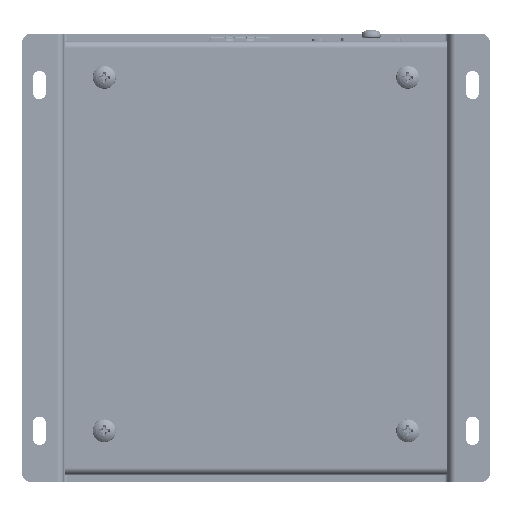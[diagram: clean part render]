
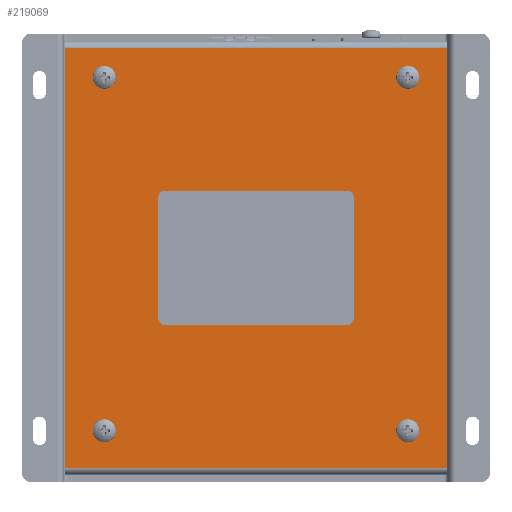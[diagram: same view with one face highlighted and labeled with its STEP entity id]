
A CAD part, front view. The second image highlights one B-rep face of the part: STEP entity #219069.
In plain terms, the highlighted planar face has unit normal (0, -1, 0).
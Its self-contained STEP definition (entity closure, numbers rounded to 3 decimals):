
#1525 = VERTEX_POINT ( 'NONE', #267707 ) ;
#8231 = CARTESIAN_POINT ( 'NONE',  ( 109.279, -18.458, 22.797 ) ) ;
#20044 = DIRECTION ( 'NONE',  ( 0., 0., -1. ) ) ;
#22725 = DIRECTION ( 'NONE',  ( 0., 1., 0. ) ) ;
#24035 = VERTEX_POINT ( 'NONE', #167311 ) ;
#27398 = PLANE ( 'NONE',  #148816 ) ;
#45549 = EDGE_LOOP ( 'NONE', ( #222410, #126764, #265588, #409314 ) ) ;
#49510 = LINE ( 'NONE', #80366, #198607 ) ;
#49584 = DIRECTION ( 'NONE',  ( 0., 0., -1. ) ) ;
#50306 = DIRECTION ( 'NONE',  ( 0., 0., -1. ) ) ;
#56574 = EDGE_CURVE ( 'NONE', #157686, #157686, #397594, .T. ) ;
#58536 = ORIENTED_EDGE ( 'NONE', *, *, #92182, .F. ) ;
#65285 = FACE_BOUND ( 'NONE', #139197, .T. ) ;
#66648 = EDGE_CURVE ( 'NONE', #148963, #24035, #259188, .T. ) ;
#75580 = VECTOR ( 'NONE', #403641, 1000. ) ;
#80366 = CARTESIAN_POINT ( 'NONE',  ( 109.279, -18.458, -86.381 ) ) ;
#81164 = VECTOR ( 'NONE', #20044, 1000. ) ;
#81535 = AXIS2_PLACEMENT_3D ( 'NONE', #323916, #210354, #250573 ) ;
#82001 = CARTESIAN_POINT ( 'NONE',  ( 99.029, -18.458, 13.508 ) ) ;
#87442 = CARTESIAN_POINT ( 'NONE',  ( 99.029, -18.458, 15.208 ) ) ;
#92182 = EDGE_CURVE ( 'NONE', #195499, #195499, #398145, .T. ) ;
#118092 = AXIS2_PLACEMENT_3D ( 'NONE', #126917, #160142, #197955 ) ;
#126570 = ORIENTED_EDGE ( 'NONE', *, *, #220206, .F. ) ;
#126764 = ORIENTED_EDGE ( 'NONE', *, *, #303538, .F. ) ;
#126917 = CARTESIAN_POINT ( 'NONE',  ( 99.029, -18.458, -76.792 ) ) ;
#129254 = FACE_BOUND ( 'NONE', #444439, .T. ) ;
#139197 = EDGE_LOOP ( 'NONE', ( #58536 ) ) ;
#141190 = EDGE_CURVE ( 'NONE', #337592, #337592, #143354, .T. ) ;
#143354 = CIRCLE ( 'NONE', #408026, 1.7 ) ;
#148816 = AXIS2_PLACEMENT_3D ( 'NONE', #382578, #22725, #209614 ) ;
#148963 = VERTEX_POINT ( 'NONE', #362449 ) ;
#155370 = CARTESIAN_POINT ( 'NONE',  ( 99.029, -18.458, -78.492 ) ) ;
#157686 = VERTEX_POINT ( 'NONE', #155370 ) ;
#159173 = CARTESIAN_POINT ( 'NONE',  ( 109.279, -18.458, 23.708 ) ) ;
#160142 = DIRECTION ( 'NONE',  ( 0., -1., 0. ) ) ;
#164429 = CARTESIAN_POINT ( 'NONE',  ( 9.779, -18.458, 23.708 ) ) ;
#167311 = CARTESIAN_POINT ( 'NONE',  ( 9.779, -18.458, 22.797 ) ) ;
#172442 = CIRCLE ( 'NONE', #81535, 1.7 ) ;
#184540 = DIRECTION ( 'NONE',  ( -1., 0., 0. ) ) ;
#195499 = VERTEX_POINT ( 'NONE', #444272 ) ;
#197577 = LINE ( 'NONE', #164429, #81164 ) ;
#197955 = DIRECTION ( 'NONE',  ( 0., 0., -1. ) ) ;
#198607 = VECTOR ( 'NONE', #184540, 1000. ) ;
#209614 = DIRECTION ( 'NONE',  ( 0., 0., 1. ) ) ;
#210354 = DIRECTION ( 'NONE',  ( 0., -1., 0. ) ) ;
#211913 = FACE_OUTER_BOUND ( 'NONE', #45549, .T. ) ;
#219069 = ADVANCED_FACE ( 'NONE', ( #453716, #65285, #129254, #347023, #211913 ), #27398, .F. ) ;
#220206 = EDGE_CURVE ( 'NONE', #422688, #422688, #172442, .T. ) ;
#222410 = ORIENTED_EDGE ( 'NONE', *, *, #422067, .T. ) ;
#248080 = ORIENTED_EDGE ( 'NONE', *, *, #56574, .F. ) ;
#250573 = DIRECTION ( 'NONE',  ( 0., 0., -1. ) ) ;
#259188 = LINE ( 'NONE', #8231, #75580 ) ;
#260469 = EDGE_CURVE ( 'NONE', #148963, #377158, #372300, .T. ) ;
#265588 = ORIENTED_EDGE ( 'NONE', *, *, #260469, .F. ) ;
#267707 = CARTESIAN_POINT ( 'NONE',  ( 9.779, -18.458, -86.381 ) ) ;
#273625 = CARTESIAN_POINT ( 'NONE',  ( 20.029, -18.458, -76.792 ) ) ;
#293563 = CARTESIAN_POINT ( 'NONE',  ( 109.279, -18.458, -86.381 ) ) ;
#303538 = EDGE_CURVE ( 'NONE', #377158, #1525, #49510, .T. ) ;
#311419 = CARTESIAN_POINT ( 'NONE',  ( 20.029, -18.458, 13.508 ) ) ;
#323916 = CARTESIAN_POINT ( 'NONE',  ( 20.029, -18.458, 15.208 ) ) ;
#337592 = VERTEX_POINT ( 'NONE', #82001 ) ;
#337607 = AXIS2_PLACEMENT_3D ( 'NONE', #273625, #337699, #342353 ) ;
#337699 = DIRECTION ( 'NONE',  ( 0., -1., 0. ) ) ;
#342235 = VECTOR ( 'NONE', #50306, 1000. ) ;
#342353 = DIRECTION ( 'NONE',  ( 0., 0., -1. ) ) ;
#347023 = FACE_BOUND ( 'NONE', #386628, .T. ) ;
#362449 = CARTESIAN_POINT ( 'NONE',  ( 109.279, -18.458, 22.797 ) ) ;
#372300 = LINE ( 'NONE', #159173, #342235 ) ;
#377158 = VERTEX_POINT ( 'NONE', #293563 ) ;
#382578 = CARTESIAN_POINT ( 'NONE',  ( 109.279, -18.458, 23.708 ) ) ;
#386628 = EDGE_LOOP ( 'NONE', ( #444540 ) ) ;
#397594 = CIRCLE ( 'NONE', #118092, 1.7 ) ;
#398145 = CIRCLE ( 'NONE', #337607, 1.7 ) ;
#398244 = EDGE_LOOP ( 'NONE', ( #248080 ) ) ;
#403641 = DIRECTION ( 'NONE',  ( -1., 0., 0. ) ) ;
#408026 = AXIS2_PLACEMENT_3D ( 'NONE', #87442, #445005, #49584 ) ;
#409314 = ORIENTED_EDGE ( 'NONE', *, *, #66648, .T. ) ;
#422067 = EDGE_CURVE ( 'NONE', #24035, #1525, #197577, .T. ) ;
#422688 = VERTEX_POINT ( 'NONE', #311419 ) ;
#444272 = CARTESIAN_POINT ( 'NONE',  ( 20.029, -18.458, -78.492 ) ) ;
#444439 = EDGE_LOOP ( 'NONE', ( #126570 ) ) ;
#444540 = ORIENTED_EDGE ( 'NONE', *, *, #141190, .F. ) ;
#445005 = DIRECTION ( 'NONE',  ( 0., -1., 0. ) ) ;
#453716 = FACE_BOUND ( 'NONE', #398244, .T. ) ;
